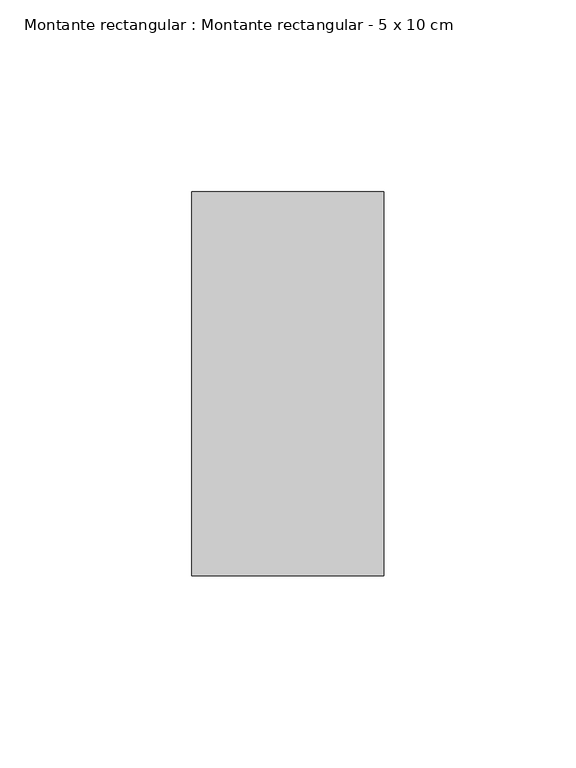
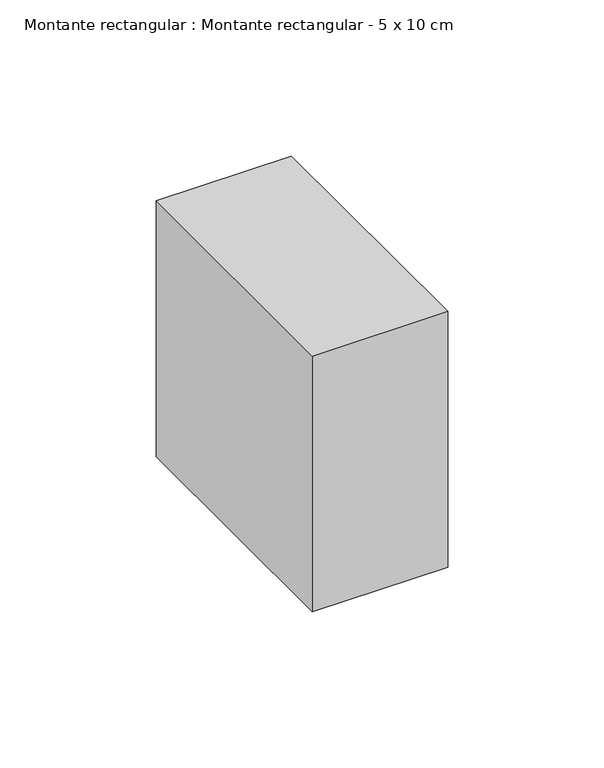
"""IFC4 building model written with IfcOpenShell, lengths in millimetres: member geometry, Montante rectangular : Montante rectangular - 5 x 10 cm."""

from ifc_helpers import new_model, si_unit, frame, origin, place, context, project, spatial, polyline, outline, extrude, source, transform, mapped, element, save


def montante_rectangular_montante_rectangular_5_x_10_cm_3de90236(model_context):
    return source(origin(), model_context, "Body", "SweptSolid", [
        extrude(outline(polyline([(0.0, 50.0), (0.0, -50.0), (-50.0, -50.0), (-50.0, 50.0), (0.0, 50.0)])), frame((0.0, 0.0, -100.0), z_axis=(0.0, 0.0, 1.0), x_axis=(1.0, 0.0, 0.0)), (0.0, 0.0, 1.0), 100.0),
    ])


if __name__ == "__main__":
    model = new_model("IFC4")
    model_context = context("Model", 3, world=origin())
    ifc_project = project(units=[si_unit("LENGTHUNIT", "METRE", prefix="MILLI")], contexts=[model_context])
    site = spatial("IfcSite", under=ifc_project)
    building = spatial("IfcBuilding", under=site)
    placement = place(None, origin())
    montante_rectangular_montante_rectangular_5_x_10_cm_shape = montante_rectangular_montante_rectangular_5_x_10_cm_3de90236(model_context)
    element("IfcMember", 1, ObjectType="Montante rectangular : Montante rectangular - 5 x 10 cm", at=placement, inside=building, context=model_context, shape_type="MappedRepresentation", body=[
        mapped(montante_rectangular_montante_rectangular_5_x_10_cm_shape, transform((0.0, 0.0, 0.0), x_axis=(1.0, 0.0, 0.0), y_axis=(0.0, 1.0, 0.0), z_axis=(0.0, 0.0, 1.0))),
    ])
    save(model, "model.ifc")
